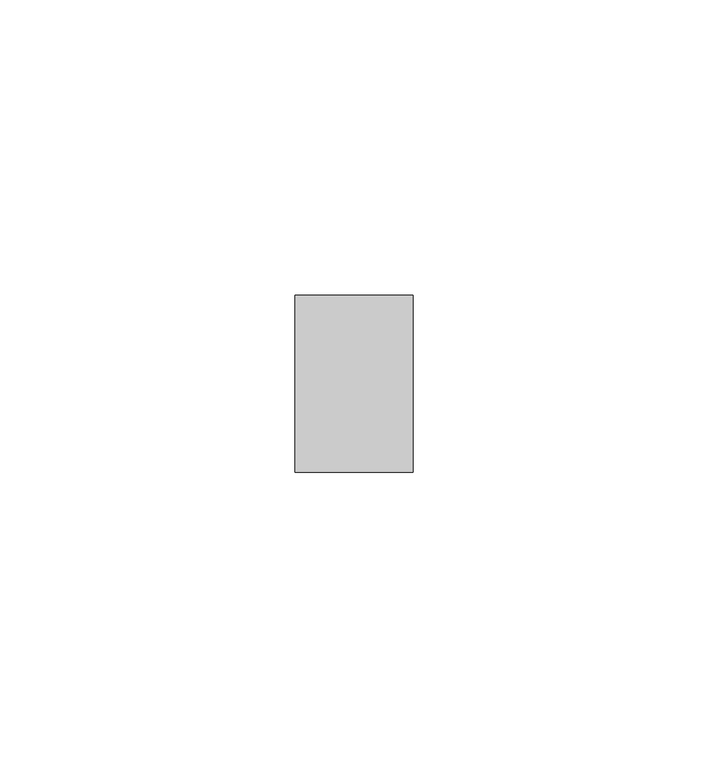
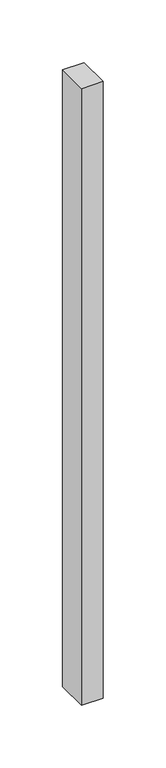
"""IFC4 building model written with IfcOpenShell, lengths in millimetres: member geometry, Прямоугольный импост : Квадрат 10 мм - Зазор между навесными плитами."""

from ifc_helpers import new_model, si_unit, frame, origin, place, context, project, spatial, polyline, outline, extrude, source, transform, mapped, element, save


def member_19deafb8(model_context):
    return source(origin(), model_context, "Body", "SweptSolid", [
        extrude(outline(polyline([(10.0, 15.0), (10.0, -15.0), (-10.0, -15.0), (-10.0, 15.0), (10.0, 15.0)])), frame((0.0, 0.0, -600.0), z_axis=(0.0, 0.0, 1.0), x_axis=(1.0, 0.0, 0.0)), (0.0, 0.0, 1.0), 600.0),
    ])


if __name__ == "__main__":
    model = new_model("IFC4")
    model_context = context("Model", 3, world=origin())
    ifc_project = project(units=[si_unit("LENGTHUNIT", "METRE", prefix="MILLI")], contexts=[model_context])
    site = spatial("IfcSite", under=ifc_project)
    building = spatial("IfcBuilding", under=site)
    placement = place(None, origin())
    member_shape = member_19deafb8(model_context)
    element("IfcMember", 1, ObjectType="Прямоугольный импост : Квадрат 10 мм - Зазор между навесными плитами", at=placement, inside=building, context=model_context, shape_type="MappedRepresentation", body=[
        mapped(member_shape, transform((0.0, 0.0, 0.0), x_axis=(1.0, 0.0, 0.0), y_axis=(0.0, 1.0, 0.0), z_axis=(0.0, 0.0, 1.0))),
    ])
    save(model, "model.ifc")
